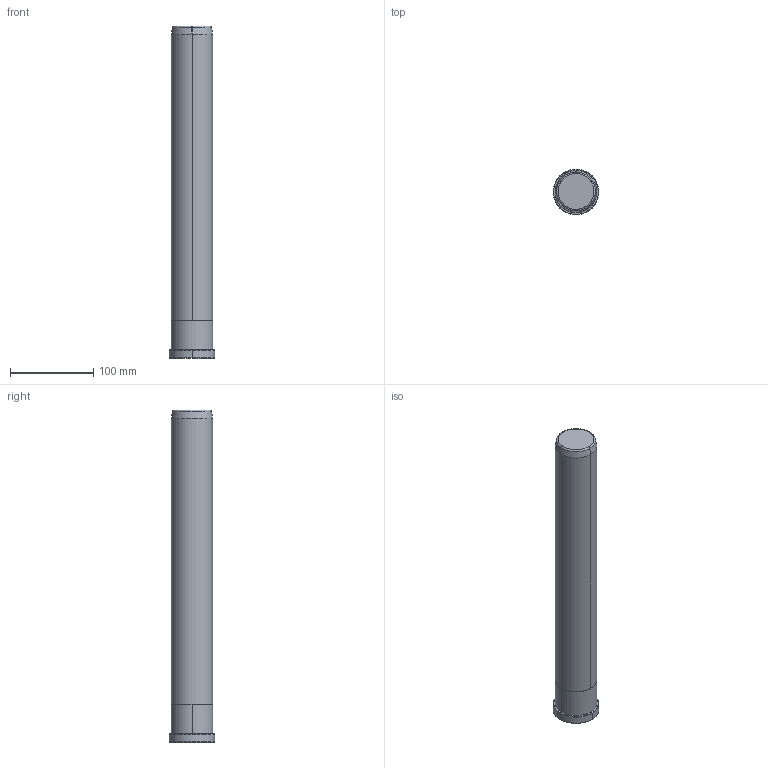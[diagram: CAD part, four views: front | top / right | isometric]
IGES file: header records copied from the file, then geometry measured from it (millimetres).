
Start section: START RECORD GO HERE.
Global section: file name: B80850400.igs; native system: DASSAULT SYSTEMES CATIA V5 R20 - www.3ds.com; preprocessor: CATIA Version 5 Release 20 ; author: Utente; organization: NB04-ASUS; date: 20200419.164347; units: millimetre
Bounding box: 55 x 55 x 400 mm (x, y, z)
Surface area: 67258 mm2 (no closed solid volume)
Topology: 0 solids, 0 shells, 20 faces, 80 edges, 80 vertices
Faces by surface type: revolution 16, plane 4
